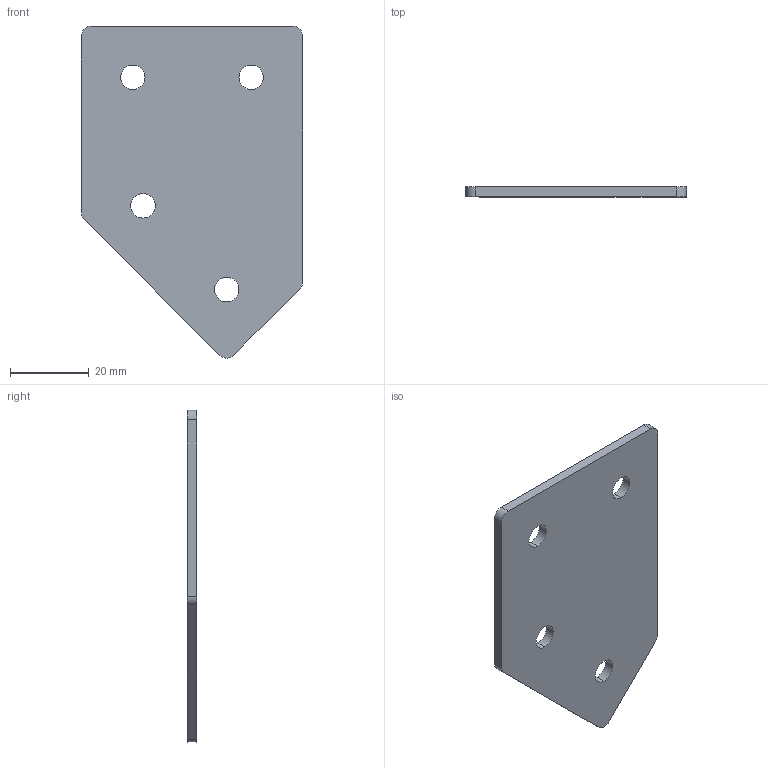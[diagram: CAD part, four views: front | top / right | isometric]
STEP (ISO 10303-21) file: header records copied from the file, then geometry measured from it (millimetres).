
FILE_DESCRIPTION (( 'STEP AP203' ), '1' );
FILE_NAME ('Ï-4-óãîë-45-30.STEP', '2016-07-23T16:55:28', ( '' ), ( '' ), 'SwSTEP 2.0', 'SolidWorks 2014', '' );
FILE_SCHEMA (( 'CONFIG_CONTROL_DESIGN' ));
Length unit declared in the file: millimetre
Products named in the file (1): Ï-4-óãîë-45-30
Bounding box: 56 x 2.5 x 84.13 mm (x, y, z)
Surface area: 8376.7 mm2 (no closed solid volume)
Topology: 0 solids, 1 shells, 20 faces, 54 edges, 36 vertices
Faces by surface type: cylinder 13, plane 7
Entity records: 737 total; most frequent: DIRECTION 122, CARTESIAN_POINT 111, ORIENTED_EDGE 108, EDGE_CURVE 54, AXIS2_PLACEMENT_3D 47, VERTEX_POINT 36, EDGE_LOOP 28, VECTOR 28
